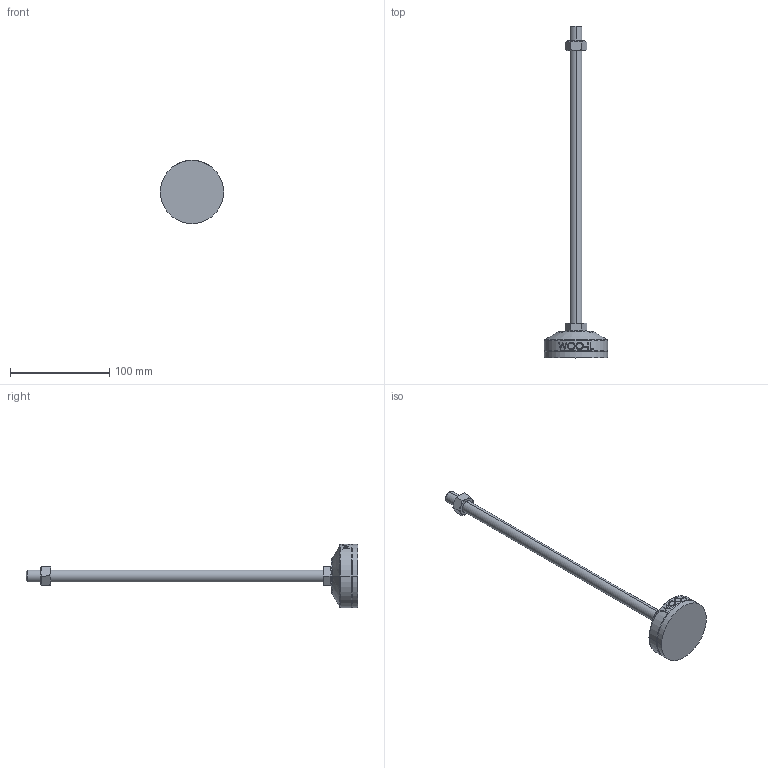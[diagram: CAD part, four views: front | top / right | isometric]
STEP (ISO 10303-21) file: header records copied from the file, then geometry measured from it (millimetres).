
FILE_DESCRIPTION (( 'STEP AP214' ), '1' );
FILE_NAME ('MFZR64-M12-300.step', '2021-03-29T06:55:22', ( '' ), ( '' ), 'SwSTEP 2.0', 'SolidWorks 2019', '' );
FILE_SCHEMA (( 'AUTOMOTIVE_DESIGN' ));
Length unit declared in the file: millimetre
Products named in the file (2): MFZR64-M12-300
Bounding box: 64 x 335 x 64 mm (x, y, z)
Volume: 113542.9 mm3; surface area: 30631.6 mm2
Topology: 4 solids, 4 shells, 103 faces, 235 edges, 150 vertices
Faces by surface type: plane 49, cylinder 18, bspline 16, cone 14, torus 6
Entity records: 4435 total; most frequent: CARTESIAN_POINT 2162, ORIENTED_EDGE 470, DIRECTION 417, EDGE_CURVE 235, AXIS2_PLACEMENT_3D 159, VERTEX_POINT 150, EDGE_LOOP 115, FACE_OUTER_BOUND 103
